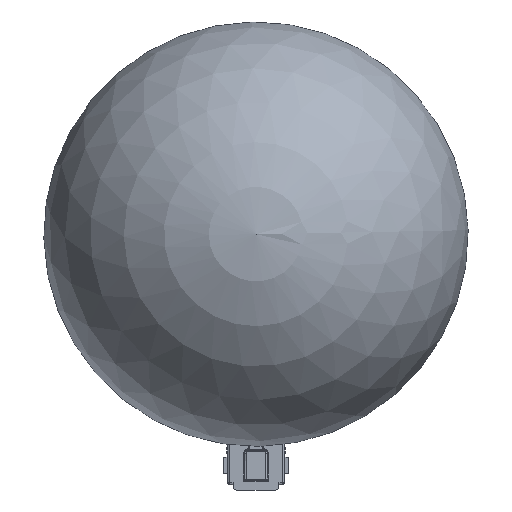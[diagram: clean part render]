
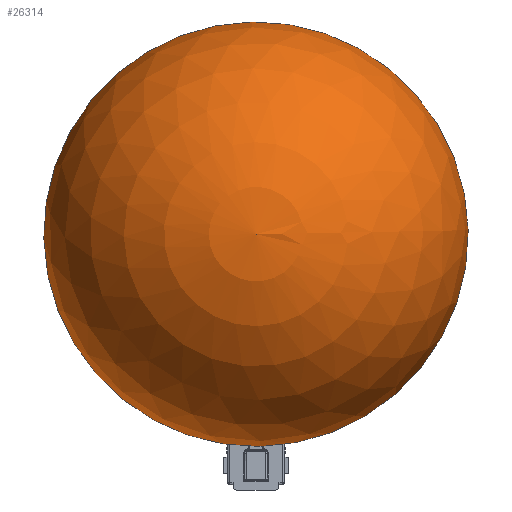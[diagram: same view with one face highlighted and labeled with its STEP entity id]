
A CAD part, front view. The second image highlights one B-rep face of the part: STEP entity #26314.
In plain terms, the highlighted spherical face has radius 60 mm.
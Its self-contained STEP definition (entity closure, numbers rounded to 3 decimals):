
#4371 = DIRECTION ( 'NONE',  ( 1., 0., 0. ) ) ;
#9208 = CARTESIAN_POINT ( 'NONE',  ( 0., 0., 0. ) ) ;
#24489 = ORIENTED_EDGE ( 'NONE', *, *, #48784, .T. ) ;
#26314 = ADVANCED_FACE ( 'NONE', ( #44085 ), #37432, .T. ) ;
#26640 = EDGE_LOOP ( 'NONE', ( #67659, #24489 ) ) ;
#29737 = DIRECTION ( 'NONE',  ( 0., -1., 0. ) ) ;
#31700 = CARTESIAN_POINT ( 'NONE',  ( 0., 0., 60. ) ) ;
#35516 = VERTEX_POINT ( 'NONE', #53882 ) ;
#35988 = DIRECTION ( 'NONE',  ( 0., -1., 0. ) ) ;
#37432 = SPHERICAL_SURFACE ( 'NONE', #55009, 60. ) ;
#37888 = CARTESIAN_POINT ( 'NONE',  ( 0., 0., 0. ) ) ;
#43206 = DIRECTION ( 'NONE',  ( 0., 1., 0. ) ) ;
#44085 = FACE_OUTER_BOUND ( 'NONE', #26640, .T. ) ;
#46092 = DIRECTION ( 'NONE',  ( 1., 0., 0. ) ) ;
#48784 = EDGE_CURVE ( 'NONE', #61182, #35516, #61661, .T. ) ;
#51801 = AXIS2_PLACEMENT_3D ( 'NONE', #37888, #43206, #64719 ) ;
#51878 = CIRCLE ( 'NONE', #51801, 60. ) ;
#53882 = CARTESIAN_POINT ( 'NONE',  ( 0., 0., -60. ) ) ;
#55009 = AXIS2_PLACEMENT_3D ( 'NONE', #67654, #35988, #4371 ) ;
#60525 = AXIS2_PLACEMENT_3D ( 'NONE', #9208, #29737, #46092 ) ;
#61182 = VERTEX_POINT ( 'NONE', #31700 ) ;
#61349 = EDGE_CURVE ( 'NONE', #61182, #35516, #51878, .T. ) ;
#61661 = CIRCLE ( 'NONE', #60525, 60. ) ;
#64719 = DIRECTION ( 'NONE',  ( 0., 0., 1. ) ) ;
#67654 = CARTESIAN_POINT ( 'NONE',  ( 0., 0., 0. ) ) ;
#67659 = ORIENTED_EDGE ( 'NONE', *, *, #61349, .F. ) ;
